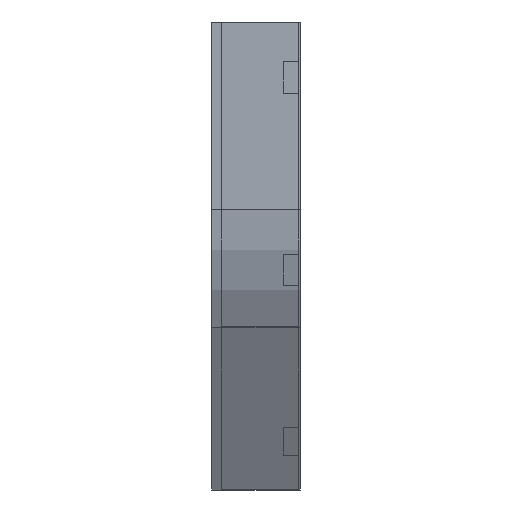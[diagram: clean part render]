
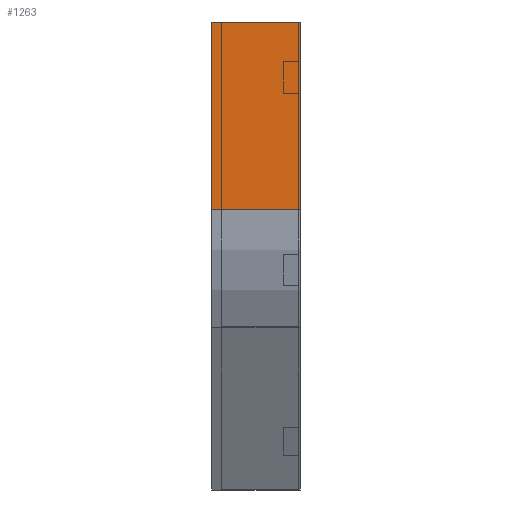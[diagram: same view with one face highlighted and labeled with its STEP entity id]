
A CAD part, left-side view. The second image highlights one B-rep face of the part: STEP entity #1263.
In plain terms, the highlighted planar face has unit normal (-1, 0, 0).
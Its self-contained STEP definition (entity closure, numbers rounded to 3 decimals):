
#9 = CARTESIAN_POINT ( 'NONE',  ( 0., 112.5, 0. ) ) ;
#83 = ORIENTED_EDGE ( 'NONE', *, *, #1185, .F. ) ;
#189 = DIRECTION ( 'NONE',  ( 0., 0., -1. ) ) ;
#314 = DIRECTION ( 'NONE',  ( 0., -1., 0. ) ) ;
#325 = LINE ( 'NONE', #1044, #1465 ) ;
#368 = DIRECTION ( 'NONE',  ( 0., 0., -1. ) ) ;
#373 = ORIENTED_EDGE ( 'NONE', *, *, #558, .T. ) ;
#396 = DIRECTION ( 'NONE',  ( 0., 0., -1. ) ) ;
#458 = VECTOR ( 'NONE', #189, 1000. ) ;
#482 = LINE ( 'NONE', #9, #608 ) ;
#558 = EDGE_CURVE ( 'NONE', #1525, #1702, #482, .T. ) ;
#608 = VECTOR ( 'NONE', #396, 1000. ) ;
#706 = PLANE ( 'NONE',  #1006 ) ;
#811 = CARTESIAN_POINT ( 'NONE',  ( 0., 112.5, -237.564 ) ) ;
#840 = CARTESIAN_POINT ( 'NONE',  ( 0., 0., 0. ) ) ;
#842 = VECTOR ( 'NONE', #1256, 1000. ) ;
#965 = FACE_OUTER_BOUND ( 'NONE', #978, .T. ) ;
#971 = EDGE_CURVE ( 'NONE', #1525, #1533, #1244, .T. ) ;
#978 = EDGE_LOOP ( 'NONE', ( #83, #1210, #373, #1841 ) ) ;
#1006 = AXIS2_PLACEMENT_3D ( 'NONE', #1283, #1852, #368 ) ;
#1044 = CARTESIAN_POINT ( 'NONE',  ( 0., 0., -237.564 ) ) ;
#1179 = LINE ( 'NONE', #1186, #458 ) ;
#1185 = EDGE_CURVE ( 'NONE', #1533, #1480, #1179, .T. ) ;
#1186 = CARTESIAN_POINT ( 'NONE',  ( 0., 0., 0. ) ) ;
#1210 = ORIENTED_EDGE ( 'NONE', *, *, #971, .F. ) ;
#1244 = LINE ( 'NONE', #840, #842 ) ;
#1256 = DIRECTION ( 'NONE',  ( 0., -1., 0. ) ) ;
#1263 = ADVANCED_FACE ( 'NONE', ( #965 ), #706, .F. ) ;
#1283 = CARTESIAN_POINT ( 'NONE',  ( 0., 0., 0. ) ) ;
#1309 = CARTESIAN_POINT ( 'NONE',  ( 0., 0., -237.564 ) ) ;
#1340 = CARTESIAN_POINT ( 'NONE',  ( 0., 112.5, 0. ) ) ;
#1465 = VECTOR ( 'NONE', #314, 1000. ) ;
#1480 = VERTEX_POINT ( 'NONE', #1309 ) ;
#1525 = VERTEX_POINT ( 'NONE', #1340 ) ;
#1533 = VERTEX_POINT ( 'NONE', #1776 ) ;
#1554 = EDGE_CURVE ( 'NONE', #1702, #1480, #325, .T. ) ;
#1702 = VERTEX_POINT ( 'NONE', #811 ) ;
#1776 = CARTESIAN_POINT ( 'NONE',  ( 0., 0., 0. ) ) ;
#1841 = ORIENTED_EDGE ( 'NONE', *, *, #1554, .T. ) ;
#1852 = DIRECTION ( 'NONE',  ( 1., 0., 0. ) ) ;
